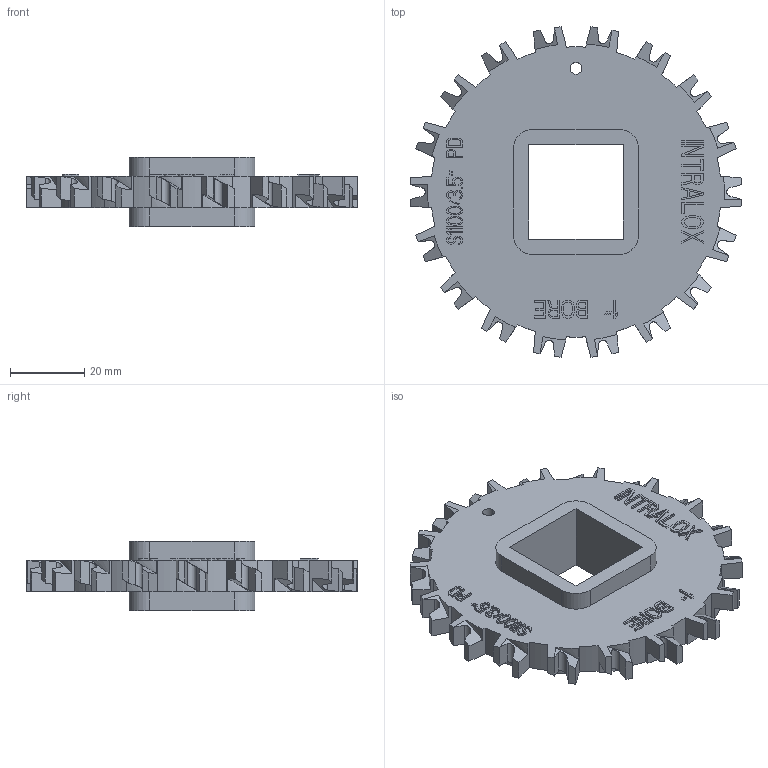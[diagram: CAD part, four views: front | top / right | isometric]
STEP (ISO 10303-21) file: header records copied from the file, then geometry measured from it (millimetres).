
FILE_DESCRIPTION((''),'2;1');
FILE_NAME('S1100_SPROCKET_35X1_SQ','2008-12-12T',('jmumphre'),(''),'PRO/ENGINEER BY PARAMETRIC TECHNOLOGY CORPORATION, 2008150','PRO/ENGINEER BY PARAMETRIC TECHNOLOGY CORPORATION, 2008150','');
FILE_SCHEMA(('CONFIG_CONTROL_DESIGN'));
Length unit declared in the file: inch
Products named in the file (1): S1100_SPROCKET_35X1_SQ
Bounding box: 89.2 x 89.16 x 18.64 mm (x, y, z)
Volume: 43796.1 mm3; surface area: 16842.1 mm2
Topology: 1 solids, 1 shells, 857 faces, 2406 edges, 1592 vertices
Faces by surface type: plane 775, cylinder 82
Entity records: 27614 total; most frequent: CARTESIAN_POINT 5501, ORIENTED_EDGE 4812, DIRECTION 4140, EDGE_CURVE 2406, VECTOR 2242, LINE 2242, VERTEX_POINT 1592, AXIS2_PLACEMENT_3D 949
